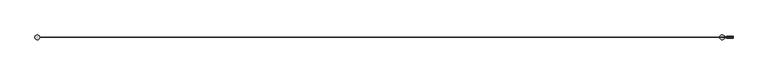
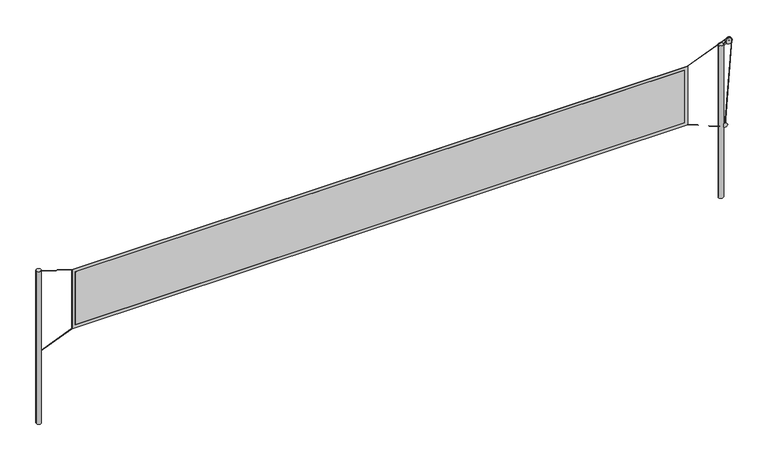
"""IFC4 building model written with IfcOpenShell, lengths in millimetres: proxy geometry, FDE_QE02_QE42_QE43_QE44_PosteVoleibol : QE44_Pré-laje_Treliçada."""

from ifc_helpers import new_model, si_unit, point, frame, frame_2d, origin, origin_2d, place, context, project, spatial, polyline, circle_curve, ellipse_curve, trimmed, segment, composite_curve, outline, extrude, source, transform, mapped, element, save
from ifc_brep_helpers import plane_surface, cylinder_surface, revolved_surface, advanced_brep


def specialty_equipment_000c56a8(model_context):
    return source(origin(), model_context, "Body", "SolidModel", [
        extrude(outline(polyline([(2216.5957447, 4961.9), (2216.5957447, -4961.9), (1216.5957447, -4961.9), (1216.5957447, 4961.9), (2216.5957447, 4961.9)]), holes=[polyline([(2166.5957447, 4911.9), (1266.5957447, 4911.9), (1266.5957447, -4911.9), (2166.5957447, -4911.9), (2166.5957447, 4911.9)])]), frame((0.0, -2.5, 0.0), z_axis=(0.0, 1.0, 0.0), x_axis=(0.0, 0.0, 1.0)), (0.0, 0.0, 1.0), 5.0),
        extrude(outline(composite_curve([segment(trimmed(circle_curve(origin_2d(), 1.0), [point((0.0, 1.0))], [point((0.0, -1.0))], False, "CARTESIAN"), True, "CONTINUOUS"), segment(trimmed(circle_curve(origin_2d(), 1.0), [point((0.0, -1.0))], [point((0.0, 1.0))], False, "CARTESIAN"), True, "CONTINUOUS")], self_intersect=False)), frame((-4961.9, 0.0, 2216.5957447), z_axis=(-0.9510565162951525, 0.0, 0.30901699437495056), x_axis=(0.0, -1.0, 0.0)), (0.0, 0.0, 1.0), 525.0),
        extrude(outline(composite_curve([segment(trimmed(circle_curve(origin_2d(), 1.0), [point((0.0, -1.0))], [point((0.0, 1.0))], False, "CARTESIAN"), True, "CONTINUOUS"), segment(trimmed(circle_curve(origin_2d(), 1.0), [point((0.0, 1.0))], [point((0.0, -1.0))], False, "CARTESIAN"), True, "CONTINUOUS")], self_intersect=False)), frame((-5481.1229586, 0.0, 1006.8160524), z_axis=(0.9271838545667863, 0.0, 0.37460659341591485), x_axis=(0.0, -1.0, 0.0)), (0.0, 0.0, 1.0), 560.0),
        advanced_brep(
        [(4962.2661659, 0.0, 2215.6651951), (4961.5338341, 0.0, 2217.5262943), (5566.8416712, 0.0, 994.9916222), (5568.8360026, 0.0, 994.8411485), (5607.5796509, 0.0, 2469.5923524), (5606.847319, 0.0, 2471.4534515), (5676.3772313, 0.0, 2420.158342), (5674.3829, 0.0, 2420.3088158)],
        [
            (0, 1, circle_curve(frame((4961.9, 0.0, 2216.5957447), z_axis=(-0.9305495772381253, 0.0, -0.3661659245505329), x_axis=(-0.3661659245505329, 0.0, 0.9305495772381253)), 1.0)),
            (1, 0, circle_curve(frame((4961.9, 0.0, 2216.5957447), z_axis=(-0.9305495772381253, 0.0, -0.3661659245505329), x_axis=(-0.3661659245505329, 0.0, 0.9305495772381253)), 1.0)),
            (2, 3, circle_curve(frame((5567.8388369, 0.0, 994.9163853), z_axis=(-0.07523688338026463, 0.0, -0.9971656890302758), x_axis=(0.9971656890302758, 0.0, -0.07523688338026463)), 1.0)),
            (3, 2, circle_curve(frame((5567.8388369, 0.0, 994.9163853), z_axis=(-0.07523688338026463, 0.0, -0.9971656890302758), x_axis=(0.9971656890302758, 0.0, -0.07523688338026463)), 1.0)),
            (0, 4),
            (4, 5, circle_curve(frame((5607.213485, 0.0, 2470.522902), z_axis=(-0.9305495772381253, 0.0, -0.3661659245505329), x_axis=(-0.3661659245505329, 0.0, 0.9305495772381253)), 1.0)),
            (5, 1),
            (5, 4, circle_curve(frame((5607.213485, 0.0, 2470.522902), z_axis=(-0.9305495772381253, 0.0, -0.3661659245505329), x_axis=(-0.3661659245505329, 0.0, 0.9305495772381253)), 1.0)),
            (6, 7, circle_curve(frame((5675.3800656, 0.0, 2420.2335789), z_axis=(-0.07523688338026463, 0.0, -0.9971656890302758), x_axis=(0.9971656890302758, 0.0, -0.07523688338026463)), 1.0)),
            (7, 2),
            (3, 6),
            (7, 6, circle_curve(frame((5675.3800656, 0.0, 2420.2335789), z_axis=(-0.07523688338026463, 0.0, -0.9971656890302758), x_axis=(0.9971656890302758, 0.0, -0.07523688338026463)), 1.0)),
            (6, 5, circle_curve(frame((5625.5217812, 0.0, 2423.9954231), z_axis=(0.0, -1.0, 0.0), x_axis=(-0.366165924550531, 0.0, 0.9305495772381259)), 51.0)),
            (4, 7, circle_curve(frame((5625.5217812, 0.0, 2423.9954231), z_axis=(0.0, 1.0, 0.0), x_axis=(-0.366165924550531, 0.0, 0.9305495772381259)), 49.0)),
        ],
        [
            plane_surface(frame((4961.9, 0.0, 2216.5957447), z_axis=(-0.9305495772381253, 0.0, -0.3661659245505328), x_axis=(0.0, -1.0, 0.0))),
            plane_surface(frame((5567.8388369, 0.0, 994.9163853), z_axis=(-0.07523688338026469, 0.0, -0.9971656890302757), x_axis=(0.0, -1.0, 0.0))),
            cylinder_surface(frame((4961.9, 0.0, 2216.5957447), z_axis=(-0.9305495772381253, 0.0, -0.3661659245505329), x_axis=(-0.3661659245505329, 0.0, 0.9305495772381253)), 1.0),
            cylinder_surface(frame((5675.3800656, 0.0, 2420.2335789), z_axis=(0.07523688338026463, 0.0, 0.9971656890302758), x_axis=(0.9971656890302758, 0.0, -0.07523688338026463)), 1.0),
            revolved_surface(trimmed(ellipse_curve(frame((5607.213485, 0.0, 2470.522902), z_axis=(-0.9305495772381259, 0.0, -0.36616592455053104), x_axis=(-0.36616592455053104, 0.0, 0.9305495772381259)), 1.0, 1.0), [point((5607.5796509, 0.0, 2469.5923524))], [point((5606.847319, 0.0, 2471.4534515))], True, "CARTESIAN"), (5625.5217812, 0.0, 2423.9954231), (0.0, 1.0, 0.0)),
            revolved_surface(trimmed(ellipse_curve(frame((5607.213485, 0.0, 2470.522902), z_axis=(-0.9305495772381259, 0.0, -0.36616592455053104), x_axis=(-0.36616592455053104, 0.0, 0.9305495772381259)), 1.0, 1.0), [point((5606.847319, 0.0, 2471.4534515))], [point((5607.5796509, 0.0, 2469.5923524))], True, "CARTESIAN"), (5625.5217812, 0.0, 2423.9954231), (0.0, 1.0, 0.0)),
        ],
        [
            (0, [[1, 2]]),
            (1, [[3, 4]]),
            (2, [[-1, 5, 6, 7]]),
            (2, [[-2, -7, 8, -5]]),
            (3, [[9, 10, -4, 11]]),
            (3, [[12, -11, -3, -10]]),
            (4, [[13, -6, 14, -9]]),
            (5, [[-14, -8, -13, -12]]),
        ],
    ),
        extrude(outline(composite_curve([segment(trimmed(circle_curve(origin_2d(), 1.0), [point((0.0, -1.0))], [point((0.0, 1.0))], False, "CARTESIAN"), True, "CONTINUOUS"), segment(trimmed(circle_curve(origin_2d(), 1.0), [point((0.0, 1.0))], [point((0.0, -1.0))], False, "CARTESIAN"), True, "CONTINUOUS")], self_intersect=False)), frame((5481.1229586, 0.0, 1006.8160524), z_axis=(-0.9271838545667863, 0.0, 0.37460659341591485), x_axis=(0.0, -1.0, 0.0)), (0.0, 0.0, 1.0), 560.0),
        extrude(outline(composite_curve([segment(trimmed(circle_curve(frame_2d((5500.0, 0.0)), 38.1), [point((5538.1, 0.0))], [point((5461.9, 0.0))], False, "CARTESIAN"), True, "CONTINUOUS"), segment(trimmed(circle_curve(frame_2d((5500.0, 0.0)), 38.1), [point((5461.9, 0.0))], [point((5538.1, 0.0))], False, "CARTESIAN"), True, "CONTINUOUS")], self_intersect=False)), frame((0.0, 0.0, -200.0), z_axis=(0.0, 0.0, 1.0), x_axis=(1.0, 0.0, 0.0)), (0.0, 0.0, 1.0), 2600.0),
        extrude(outline(composite_curve([segment(trimmed(circle_curve(frame_2d((-5500.0, 0.0)), 38.1), [point((-5538.1, 0.0))], [point((-5461.9, 0.0))], False, "CARTESIAN"), True, "CONTINUOUS"), segment(trimmed(circle_curve(frame_2d((-5500.0, 0.0)), 38.1), [point((-5461.9, 0.0))], [point((-5538.1, 0.0))], False, "CARTESIAN"), True, "CONTINUOUS")], self_intersect=False)), frame((0.0, 0.0, -200.0), z_axis=(0.0, 0.0, 1.0), x_axis=(1.0, 0.0, 0.0)), (0.0, 0.0, 1.0), 2600.0),
        extrude(outline(polyline([(4911.9, -2.5), (-4911.9, -2.5), (-4911.9, 2.5), (4911.9, 2.5), (4911.9, -2.5)])), frame((0.0, 0.0, 1266.5957447), z_axis=(0.0, 0.0, 1.0), x_axis=(1.0, 0.0, 0.0)), (0.0, 0.0, 1.0), 900.0),
        extrude(outline(polyline([(1036.6421356, 5580.3324249), (1036.6421356, 5535.3324249), (965.8578644, 5535.3324249), (965.8578644, 5582.8324249), (993.75, 5610.7245606), (1006.25, 5610.7245606), (1036.6421356, 5580.3324249)])), frame((0.0, -7.4208458, 0.0), z_axis=(0.0, 1.0, 0.0), x_axis=(0.0, 0.0, 1.0)), (0.0, 0.0, 1.0), 14.631025),
        extrude(outline(composite_curve([segment(polyline([(2434.0391763, 5618.0941121), (2370.4805063, 5493.3531988), (2348.2053432, 5504.7029612), (2411.7640131, 5629.4438746)]), True, "CONTINUOUS"), segment(trimmed(circle_curve(frame_2d((2422.9015947, 5623.7689934)), 12.5), [point((2411.7640131, 5629.4438746))], [point((2434.0391763, 5618.0941121))], False, "CARTESIAN"), True, "CONTINUOUS")], self_intersect=False)), frame((0.0, -7.4208458, 0.0), z_axis=(0.0, 1.0, 0.0), x_axis=(0.0, 0.0, 1.0)), (0.0, 0.0, 1.0), 14.631025),
        extrude(outline(composite_curve([segment(trimmed(circle_curve(frame_2d((2423.9954231, 5625.5217812)), 50.0), [point((2423.9954231, 5575.5217812))], [point((2423.9954231, 5675.5217812))], False, "CARTESIAN"), True, "CONTINUOUS"), segment(trimmed(circle_curve(frame_2d((2423.9954231, 5625.5217812)), 50.0), [point((2423.9954231, 5675.5217812))], [point((2423.9954231, 5575.5217812))], False, "CARTESIAN"), True, "CONTINUOUS")], self_intersect=False)), frame((0.0, -13.2732558, 0.0), z_axis=(0.0, 1.0, 0.0), x_axis=(0.0, 0.0, 1.0)), (0.0, 0.0, 1.0), 26.3358449),
    ])


if __name__ == "__main__":
    model = new_model("IFC4")
    model_context = context("Model", 3, world=origin())
    ifc_project = project(units=[si_unit("LENGTHUNIT", "METRE", prefix="MILLI")], contexts=[model_context])
    site = spatial("IfcSite", under=ifc_project)
    building = spatial("IfcBuilding", under=site)
    placement = place(None, origin())
    specialty_equipment_shape = specialty_equipment_000c56a8(model_context)
    element("IfcBuildingElementProxy", 1, Name="FDE_QE02_QE42_QE43_QE44_PosteVoleibol : QE44_Pré-laje_Treliçada", ObjectType="FDE_QE02_QE42_QE43_QE44_PosteVoleibol : QE44_Pré-laje_Treliçada", at=placement, inside=building, context=model_context, shape_type="MappedRepresentation", body=[
        mapped(specialty_equipment_shape, transform((0.0, 0.0, 0.0), x_axis=(1.0, 0.0, 0.0), y_axis=(0.0, 1.0, 0.0), z_axis=(0.0, 0.0, 1.0))),
    ])
    save(model, "model.ifc")
